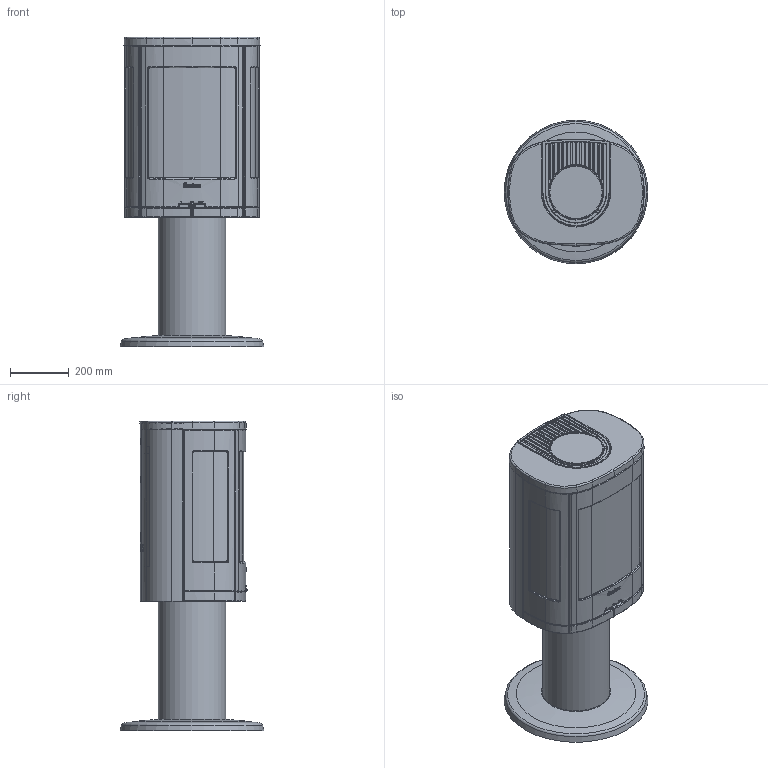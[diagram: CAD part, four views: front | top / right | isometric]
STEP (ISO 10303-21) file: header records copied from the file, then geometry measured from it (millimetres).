
FILE_DESCRIPTION( ( 'Unknown' ), '1' );
FILE_NAME( 'C:/temp/test 710720870/C880 assembly.stp', 'Unknown', ( 'Unknown' ), ( 'Unknown' ), 'PSStep 17.0.49', 'Unknown', ' ' );
FILE_SCHEMA( ( 'AUTOMOTIVE_DESIGN { 1 0 10303 214 1 1 1 1 }' ) );
Length unit declared in the file: millimetre
Products named in the file (18): Assem1; insert c800; bottom cast iron c800; Lid; door c800; top cast iron c800; rear c880; glass c800; side glass c800; upper sides c800; lattice c800; grate c800; vermiculite c800; fire c800; fire bar c800; pillar c800
Assembly tree (17 placements, depth 2):
  Assem1
    insert c800
    bottom cast iron c800
    Lid
    door c800
    top cast iron c800
    rear c880
    glass c800
    side glass c800
    side glass c800
    upper sides c800
    upper sides c800
    lattice c800
    grate c800
    vermiculite c800
    fire c800
    fire bar c800
    pillar c800
Bounding box: 490 x 490 x 1056 mm (x, y, z)
Volume: 123760186.7 mm3; surface area: 5773895.6 mm2
Topology: 17 solids, 17 shells, 2377 faces, 5900 edges, 3572 vertices
Faces by surface type: bspline 784, cylinder 565, plane 537, extrusion 181, torus 143, cone 61, revolution 54, sphere 52
Full cylindrical faces by diameter (mm): 4.85 x10, 178 x1, 230 x1
Entity records: 161875 total; most frequent: CARTESIAN_POINT 92362, ORIENTED_EDGE 11694, DIRECTION 7455, EDGE_CURVE 5847, VERTEX_POINT 3556, AXIS2_PLACEMENT_3D 2840, STYLED_ITEM 2817, PRESENTATION_STYLE_ASSIGNMENT 2817
